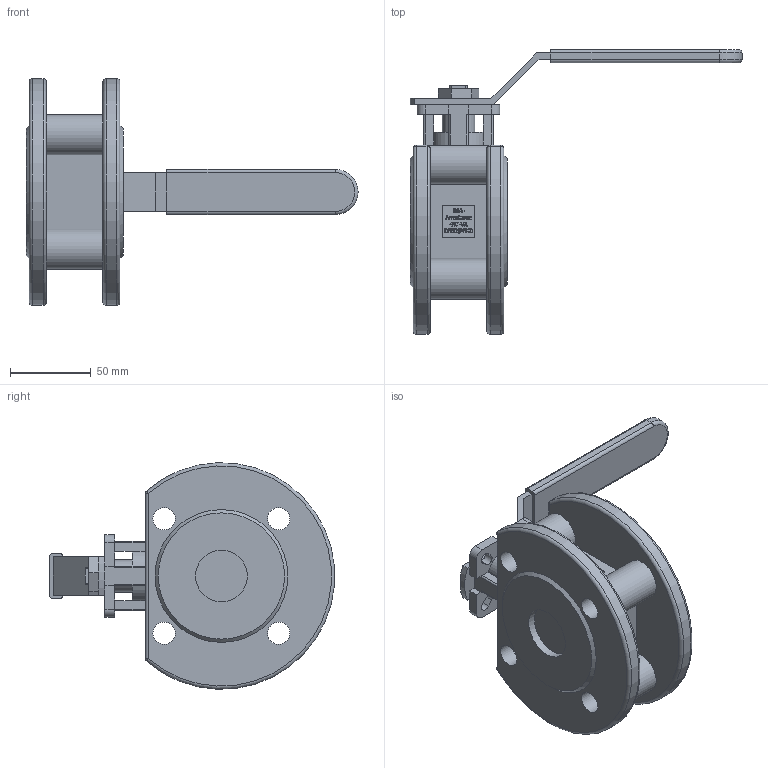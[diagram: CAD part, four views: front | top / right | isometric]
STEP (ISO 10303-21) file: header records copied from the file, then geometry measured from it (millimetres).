
FILE_DESCRIPTION((''),'2;1');
FILE_NAME('K:\Inventor\1 Artikel\12) Flanschen-Kugelhähne\12a) manuell\Econosto\437-VA, 7383\437-VA, DN32\437-VA, DN32, 3D\437-VA, DN32, PN40, HH, 3D.stp','2019-11-07T15:44:47',('claudia'),(''),'Autodesk Inventor 2013','Autodesk Inventor 2013','');
FILE_SCHEMA(('AUTOMOTIVE_DESIGN { 1 0 10303 214 1 1 1 1 }'));
Length unit declared in the file: millimetre
Products named in the file (1): Bauteil6
Bounding box: 205 x 175.85 x 139.87 mm (x, y, z)
Volume: 554307 mm3; surface area: 97162.3 mm2
Topology: 1 solids, 1 shells, 1260 faces, 3436 edges, 2273 vertices
Faces by surface type: plane 747, bspline 439, cylinder 58, sphere 8, torus 6, cone 2
Full cylindrical faces by diameter (mm): 13.835 x4, 20 x1, 32 x2, 33 x1
Entity records: 44110 total; most frequent: CARTESIAN_POINT 14026, ORIENTED_EDGE 6850, DIRECTION 4335, EDGE_CURVE 3425, VECTOR 2395, LINE 2395, VERTEX_POINT 2272, EDGE_LOOP 1393
